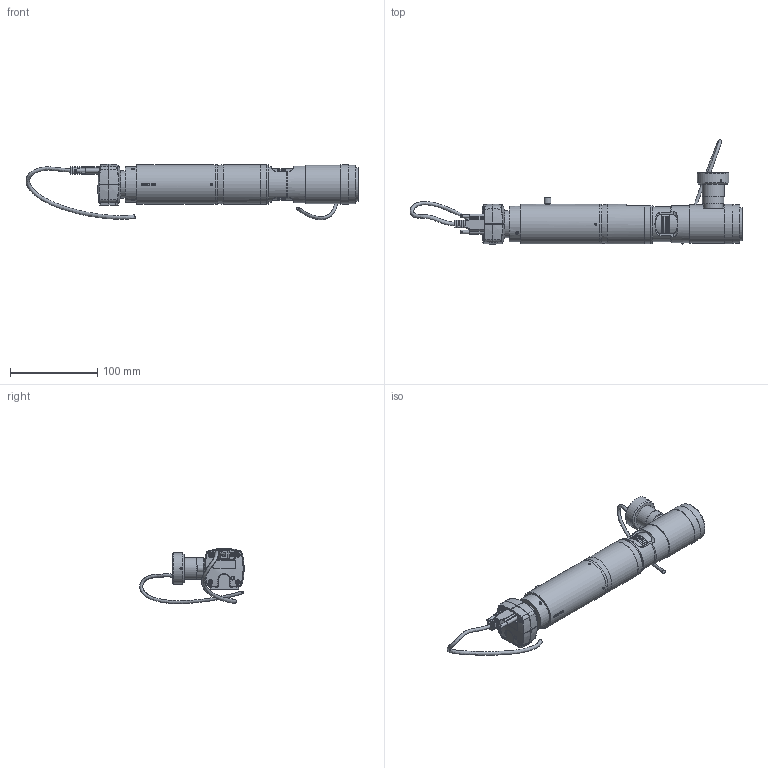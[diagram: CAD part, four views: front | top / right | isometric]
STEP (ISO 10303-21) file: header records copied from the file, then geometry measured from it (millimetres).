
FILE_DESCRIPTION(/* description */ (''),/* implementation_level */ '2;1');
FILE_NAME(/* name */ 'S:\Bureau-Technique\Vidéo\MA 730E-Z2-054-SC.stp',/* time_stamp */ '2018-10-08T09:45:56+02:00',/* author */ ('chu'),/* organization */ ('Marcel Aubert'),/* preprocessor_version */ 'ST-DEVELOPER v17.2',/* originating_system */ 'Autodesk Inventor 2019',/* authorisation */ '');
FILE_SCHEMA (('AUTOMOTIVE_DESIGN { 1 0 10303 214 3 1 1 }'));
Length unit declared in the file: millimetre
Products named in the file (1): Pièce1
Bounding box: 379.48 x 119.52 x 63.15 mm (x, y, z)
Volume: 378854.9 mm3; surface area: 96366.7 mm2
Topology: 2 solids, 14 shells, 1374 faces, 3692 edges, 2436 vertices
Faces by surface type: plane 657, cylinder 351, bspline 192, cone 100, torus 51, sphere 23
Full cylindrical faces by diameter (mm): 1.567 x2, 1.783 x2, 1.88 x4, 2 x4, 2.2 x2, 2.3 x2, 2.459 x14, 2.5 x2, 3 x5, 3.2 x1, 3.242 x3, 3.5 x5, 3.7 x1, 3.9 x2, 4 x3, 5 x2, 6.7 x1, 7.1 x2, 7.4 x2, 7.9 x1, 8.6 x3, 16.6 x1, 18 x1, 18.3 x1, 19 x1, 19.8 x1, 20 x1, 20.5 x1, 21.225 x1, 21.459 x2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
Entity records: 86936 total; most frequent: CARTESIAN_POINT 52022, ORIENTED_EDGE 7356, DIRECTION 6477, EDGE_CURVE 3678, AXIS2_PLACEMENT_3D 2452, VERTEX_POINT 2436, LINE 1573, VECTOR 1573
